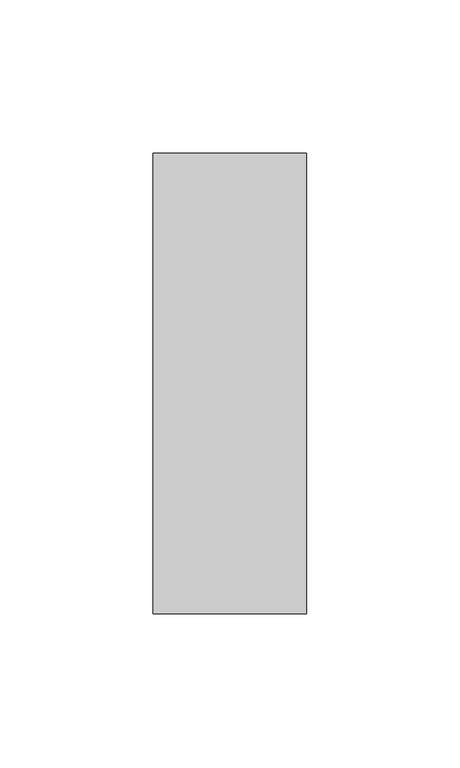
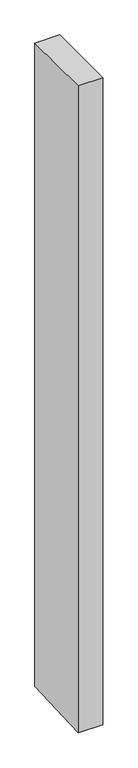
"""IFC4 building model written with IfcOpenShell, lengths in millimetres: member geometry, Прямоугольный импост : 50 x 150 мм."""

import ifcopenshell
import ifcopenshell.guid

model = None  # the IFC model being written
_history = None  # IfcOwnerHistory: only IFC2X3 demands one
_inside = {}  # id of a spatial element -> (the spatial element, [elements in it])
_under = {}  # id of a project, library or spatial element -> (it, [spatial elements below it])
_declared = {}  # id of a project -> (the project, [libraries it declares])
_typed = {}  # id of a type object -> (the type object, [elements of that type])
_made_of = {}  # id of a material, layer set ... -> (it, [elements and type objects made of it])


def new_model(schema):
    """Start an empty IFC model of exactly this schema.

    Asked for "IFC4X3", IfcOpenShell would pick the latest addendum, in which some entities
    have other attributes; the version numbers below select the first issue.
    IFC2X3 requires an IfcOwnerHistory on every rooted entity: one is made here for all.
    """
    global model, _history
    if schema == "IFC4X3":
        model = ifcopenshell.file(schema_version=(4, 3, 0, 0))
    else:
        model = ifcopenshell.file(schema=schema)
    _inside.clear()
    _under.clear()
    _declared.clear()
    _typed.clear()
    _made_of.clear()
    _history = None
    if model.schema == "IFC2X3":
        org = make("IfcOrganization", Name="unknown")
        user = make(
            "IfcPersonAndOrganization",
            ThePerson=make("IfcPerson", FamilyName="unknown"),
            TheOrganization=org,
        )
        app = make(
            "IfcApplication",
            ApplicationDeveloper=org,
            Version="unknown",
            ApplicationFullName="unknown",
            ApplicationIdentifier="unknown",
        )
        _history = make(
            "IfcOwnerHistory",
            OwningUser=user,
            OwningApplication=app,
            ChangeAction="ADDED",
            CreationDate=0,
        )
    return model


def make(cls, **values):
    """One entity of the class cls with the attributes given. An attribute that is None is left unset."""
    return model.create_entity(
        cls, **{name: value for name, value in values.items() if value is not None}
    )


def rooted(cls, **values):
    """An entity with a GlobalId (a new one), such as an element, a storey or a relation."""
    return make(cls, GlobalId=ifcopenshell.guid.new(), OwnerHistory=_history, **values)


def si_unit(unit_type, name, prefix=None):
    """IfcSIUnit, for example si_unit("LENGTHUNIT", "METRE", prefix="MILLI")."""
    return make("IfcSIUnit", UnitType=unit_type, Prefix=prefix, Name=name)


def assignment(units):
    """IfcUnitAssignment: the units of a project."""
    return None if units is None else make("IfcUnitAssignment", Units=units)


def point(xyz):
    """IfcCartesianPoint."""
    return None if xyz is None else make("IfcCartesianPoint", Coordinates=xyz)


def direction(xyz):
    """IfcDirection."""
    return None if xyz is None else make("IfcDirection", DirectionRatios=xyz)


def frame(location, z_axis=None, x_axis=None):
    """IfcAxis2Placement3D, a coordinate frame: its origin and axes. An axis left out is left unset."""
    return make(
        "IfcAxis2Placement3D",
        Location=point(location),
        Axis=direction(z_axis),
        RefDirection=direction(x_axis),
    )


def origin():
    """The frame at (0, 0, 0) with its axes left unset."""
    return frame((0.0, 0.0, 0.0))


def place(relative_to, where):
    """IfcLocalPlacement: puts the frame where relative to a parent placement (None: the world)."""
    return make(
        "IfcLocalPlacement", PlacementRelTo=relative_to, RelativePlacement=where
    )


def context(
    kind, dimensions, precision=None, world=None, true_north=None, identifier=None
):
    """IfcGeometricRepresentationContext, for example the 3D "Model" context."""
    return make(
        "IfcGeometricRepresentationContext",
        ContextIdentifier=identifier,
        ContextType=kind,
        CoordinateSpaceDimension=dimensions,
        Precision=precision,
        WorldCoordinateSystem=world,
        TrueNorth=true_north,
    )


def project(units=None, contexts=None):
    """IfcProject with its units and contexts."""
    return rooted(
        "IfcProject",
        Name="project",
        RepresentationContexts=contexts,
        UnitsInContext=assignment(units),
    )


def spatial(cls, under=None, at=None, **own):
    """A site, building, storey or space (cls), placed at a placement, below another one or the project."""
    s = rooted(cls, ObjectPlacement=at, **own)
    if under is not None:
        _under.setdefault(under.id(), (under, []))[1].append(s)
    return s


def faces_of(points, faces, orient=None, outer=None):
    """IfcFace entities. A face is a list of loops; a loop is a list of indices into points, from 0.

    orient and outer hold one flag for each loop. By default every Orientation is true, the
    first loop of a face is its IfcFaceOuterBound and the others are IfcFaceBound.
    """
    made = []
    for i, loops in enumerate(faces):
        bounds = []
        for j, loop in enumerate(loops):
            is_outer = j == 0 if outer is None else outer[i][j]
            bounds.append(
                make(
                    "IfcFaceOuterBound" if is_outer else "IfcFaceBound",
                    Bound=make("IfcPolyLoop", Polygon=[points[k] for k in loop]),
                    Orientation=True if orient is None else orient[i][j],
                )
            )
        made.append(make("IfcFace", Bounds=bounds))
    return made


def faceted_brep(points, faces, orient=None, outer=None, voids=None):
    """IfcFacetedBrep: a solid bounded by flat faces; with voids (closed shells), ...WithVoids."""
    shared = [point(p) for p in points]
    hull = make("IfcClosedShell", CfsFaces=faces_of(shared, faces, orient, outer))
    if voids is None:
        return make("IfcFacetedBrep", Outer=hull)
    return make(
        "IfcFacetedBrepWithVoids",
        Outer=hull,
        Voids=[
            make(cls, CfsFaces=faces_of(shared, fs, o, b)) for cls, fs, o, b in voids
        ],
    )


def shape(context_of_items, identifier, shape_type, items):
    """IfcShapeRepresentation: the items that make up one representation, for example the "Body"."""
    return make(
        "IfcShapeRepresentation",
        ContextOfItems=context_of_items,
        RepresentationIdentifier=identifier,
        RepresentationType=shape_type,
        Items=items,
    )


def source(mapping_origin, context_of_items, identifier, shape_type, items):
    """IfcRepresentationMap: a shape defined once, which mapped items show again and again."""
    return make(
        "IfcRepresentationMap",
        MappingOrigin=mapping_origin,
        MappedRepresentation=shape(context_of_items, identifier, shape_type, items),
    )


def transform(
    local_origin,
    x_axis=None,
    y_axis=None,
    z_axis=None,
    scale=None,
    scale2=None,
    scale3=None,
    uniform=True,
):
    """IfcCartesianTransformationOperator3D, or its non-uniform kind. x_axis, y_axis, z_axis: its Axis1, 2, 3."""
    if uniform:
        return make(
            "IfcCartesianTransformationOperator3D",
            Axis1=direction(x_axis),
            Axis2=direction(y_axis),
            LocalOrigin=point(local_origin),
            Scale=scale,
            Axis3=direction(z_axis),
        )
    return make(
        "IfcCartesianTransformationOperator3DnonUniform",
        Axis1=direction(x_axis),
        Axis2=direction(y_axis),
        LocalOrigin=point(local_origin),
        Scale=scale,
        Axis3=direction(z_axis),
        Scale2=scale2,
        Scale3=scale3,
    )


def mapped(mapping_source, mapping_target):
    """IfcMappedItem: shows the shape of a source again, moved by a transform."""
    return make(
        "IfcMappedItem", MappingSource=mapping_source, MappingTarget=mapping_target
    )


def made_of(thing, what):
    """Note that an element or type object is made of a material, layer set ...; save() writes the relation."""
    if what is not None:
        _made_of.setdefault(what.id(), (what, []))[1].append(thing)
    return thing


def element(
    cls,
    number,
    at=None,
    inside=None,
    cuts=None,
    type_object=None,
    material=None,
    context=None,
    identifier="Body",
    shape_type=None,
    held_by="IfcProductDefinitionShape",
    body=None,
    shapes=None,
    **own,
):
    """One element of the class cls, such as IfcWall. Its Tag is "e" and its number.

    at: its placement. inside: the storey or other place that contains it. cuts: it is an
    opening in that element (IfcRelVoidsElement). A single representation is given by context,
    identifier, shape_type and body (its items); several are given by shapes. held_by: the class
    of the entity that holds the representations. save() writes the other relations.
    """
    e = rooted(cls, Tag="e%d" % number, ObjectPlacement=at, **own)
    if body is not None:
        shapes = [shape(context, identifier, shape_type, body)]
    if shapes is not None:
        e.Representation = make(held_by, Representations=shapes)
    if inside is not None:
        _inside.setdefault(inside.id(), (inside, []))[1].append(e)
    if cuts is not None:
        rooted(
            "IfcRelVoidsElement", RelatingBuildingElement=cuts, RelatedOpeningElement=e
        )
    if type_object is not None:
        _typed.setdefault(type_object.id(), (type_object, []))[1].append(e)
    return made_of(e, material)


def aggregate(whole, parts):
    """IfcRelAggregates: a whole, such as a stair, and the parts it consists of."""
    return rooted("IfcRelAggregates", RelatingObject=whole, RelatedObjects=parts)


def save(model, path):
    """Write the relations noted so far, then the file.

    IfcRelAggregates (storeys below a building ...), IfcRelContainedInSpatialStructure (elements
    in a storey), IfcRelDefinesByType, IfcRelAssociatesMaterial and IfcRelDeclares: one each for
    every whole, place, type object, material and project.
    """
    for whole, parts in _under.values():
        aggregate(whole, parts)
    for where, things in _inside.values():
        rooted(
            "IfcRelContainedInSpatialStructure",
            RelatedElements=things,
            RelatingStructure=where,
        )
    for kind, things in _typed.values():
        rooted("IfcRelDefinesByType", RelatedObjects=things, RelatingType=kind)
    for what, things in _made_of.values():
        rooted("IfcRelAssociatesMaterial", RelatedObjects=things, RelatingMaterial=what)
    for by, libraries in _declared.values():
        rooted("IfcRelDeclares", RelatingContext=by, RelatedDefinitions=libraries)
    model.write(path)


def member_e1159270(model_context):
    return source(origin(), model_context, "Body", "Brep", [
        faceted_brep([(25.0, 75.0, 0.0), (-25.0, 75.0, 0.0), (-25.0, -75.0, 0.0), (25.0, -75.0, 0.0), (25.0, 75.0, -1366.3095775), (-25.0, 75.0, -1365.3412945), (-25.0, -75.0, -1373.2578385), (25.0, -75.0, -1374.2261216)], [[[0, 1, 2, 3]], [[1, 0, 4, 5]], [[2, 1, 5, 6]], [[3, 2, 6, 7]], [[0, 3, 7, 4]], [[4, 7, 6, 5]]]),
    ])


if __name__ == "__main__":
    model = new_model("IFC4")
    model_context = context("Model", 3, world=origin())
    ifc_project = project(units=[si_unit("LENGTHUNIT", "METRE", prefix="MILLI")], contexts=[model_context])
    site = spatial("IfcSite", under=ifc_project)
    building = spatial("IfcBuilding", under=site)
    placement = place(None, origin())
    member_shape = member_e1159270(model_context)
    element("IfcMember", 1, ObjectType="Прямоугольный импост : 50 x 150 мм", at=placement, inside=building, context=model_context, shape_type="MappedRepresentation", body=[
        mapped(member_shape, transform((0.0, 0.0, 0.0), x_axis=(1.0, 0.0, 0.0), y_axis=(0.0, 1.0, 0.0), z_axis=(0.0, 0.0, 1.0))),
    ])
    save(model, "model.ifc")
